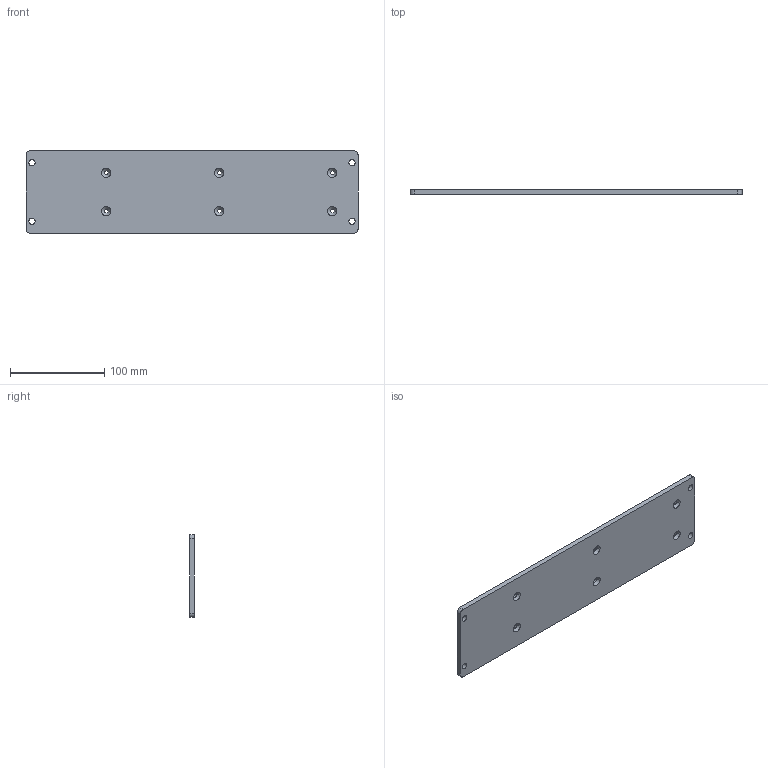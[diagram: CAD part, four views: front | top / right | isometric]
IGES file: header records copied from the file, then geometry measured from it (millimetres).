
Start section:  PTC IGES file: cu_pnl_mt_crio-903x_low_profile.igs
Global section: file name: cu_pnl_mt_crio-903x_low_profile.igs; native system: Creo Parametric by PTC Inc.; preprocessor: 2017480; author: jbuhisan; organization: Unknown; date: 20180524.150925; units: millimetre
Bounding box: 352.4 x 4.76 x 87.48 mm (x, y, z)
Surface area: 66036.3 mm2 (no closed solid volume)
Topology: 0 solids, 0 shells, 42 faces, 216 edges, 216 vertices
Faces by surface type: revolution 36, bspline 6
